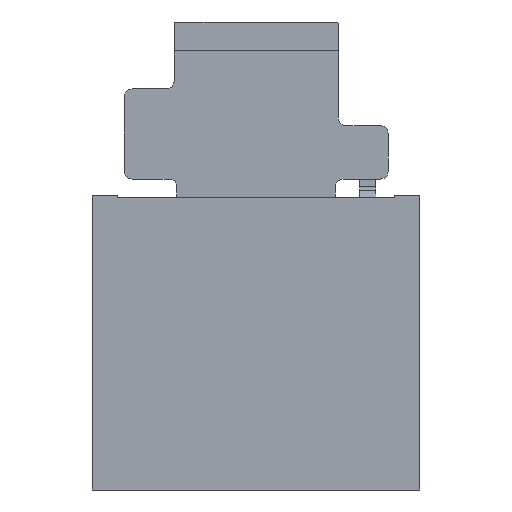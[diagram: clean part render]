
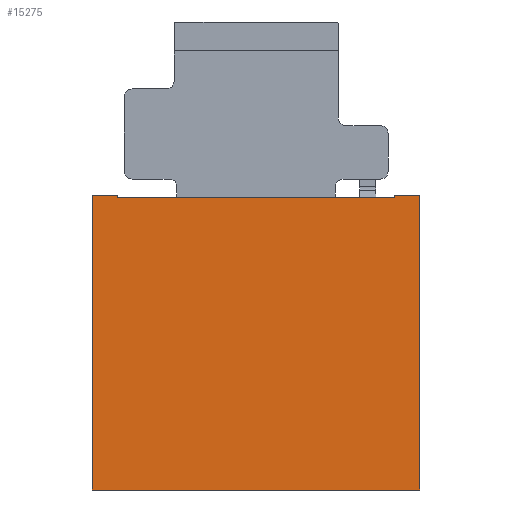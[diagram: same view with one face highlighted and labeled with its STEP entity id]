
A CAD part, front view. The second image highlights one B-rep face of the part: STEP entity #15275.
In plain terms, the highlighted planar face has unit normal (0, -1, 0).
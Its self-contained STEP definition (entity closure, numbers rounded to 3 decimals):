
#332 = VERTEX_POINT ( 'NONE', #14712 ) ;
#342 = DIRECTION ( 'NONE',  ( 1., 0., 0. ) ) ;
#1255 = LINE ( 'NONE', #40661, #14587 ) ;
#1349 = DIRECTION ( 'NONE',  ( 1., 0., 0. ) ) ;
#1747 = CARTESIAN_POINT ( 'NONE',  ( 21.5, -2.25, 22.9 ) ) ;
#2361 = ORIENTED_EDGE ( 'NONE', *, *, #27045, .F. ) ;
#2370 = EDGE_CURVE ( 'NONE', #35979, #35973, #17738, .T. ) ;
#2850 = EDGE_CURVE ( 'NONE', #30347, #332, #36695, .T. ) ;
#5593 = EDGE_CURVE ( 'NONE', #12898, #27149, #27370, .T. ) ;
#6793 = VECTOR ( 'NONE', #33354, 1000. ) ;
#7065 = LINE ( 'NONE', #20260, #6793 ) ;
#8303 = ORIENTED_EDGE ( 'NONE', *, *, #2850, .T. ) ;
#10210 = LINE ( 'NONE', #26378, #35811 ) ;
#10499 = CARTESIAN_POINT ( 'NONE',  ( -21.5, -2.25, 22.9 ) ) ;
#10886 = CARTESIAN_POINT ( 'NONE',  ( 21.5, -2.25, 22.9 ) ) ;
#12898 = VERTEX_POINT ( 'NONE', #1747 ) ;
#14171 = DIRECTION ( 'NONE',  ( 0., 0., 1. ) ) ;
#14587 = VECTOR ( 'NONE', #14171, 1000. ) ;
#14709 = CARTESIAN_POINT ( 'NONE',  ( -21.5, -2.25, 22.5 ) ) ;
#14712 = CARTESIAN_POINT ( 'NONE',  ( 25.45, -2.25, -22.9 ) ) ;
#15275 = ADVANCED_FACE ( 'NONE', ( #34993 ), #34360, .T. ) ;
#17370 = CARTESIAN_POINT ( 'NONE',  ( -25.45, -2.25, -22.9 ) ) ;
#17738 = LINE ( 'NONE', #14709, #26512 ) ;
#17739 = CARTESIAN_POINT ( 'NONE',  ( -25.45, -2.25, 22.9 ) ) ;
#17914 = EDGE_CURVE ( 'NONE', #35973, #12898, #19969, .T. ) ;
#19309 = ORIENTED_EDGE ( 'NONE', *, *, #2370, .F. ) ;
#19671 = VECTOR ( 'NONE', #342, 1000. ) ;
#19969 = LINE ( 'NONE', #10886, #20537 ) ;
#20260 = CARTESIAN_POINT ( 'NONE',  ( -25.45, -2.25, -22.9 ) ) ;
#20537 = VECTOR ( 'NONE', #24251, 1000. ) ;
#21651 = EDGE_CURVE ( 'NONE', #39586, #35979, #10210, .T. ) ;
#22102 = EDGE_CURVE ( 'NONE', #332, #27149, #1255, .T. ) ;
#24251 = DIRECTION ( 'NONE',  ( 0., 0., 1. ) ) ;
#24482 = DIRECTION ( 'NONE',  ( 0., 0., -1. ) ) ;
#25886 = LINE ( 'NONE', #35991, #39928 ) ;
#26378 = CARTESIAN_POINT ( 'NONE',  ( -21.5, -2.25, 22.9 ) ) ;
#26512 = VECTOR ( 'NONE', #31676, 1000. ) ;
#27045 = EDGE_CURVE ( 'NONE', #28631, #39586, #25886, .T. ) ;
#27149 = VERTEX_POINT ( 'NONE', #33401 ) ;
#27370 = LINE ( 'NONE', #17739, #36412 ) ;
#28210 = EDGE_CURVE ( 'NONE', #30347, #28631, #7065, .T. ) ;
#28631 = VERTEX_POINT ( 'NONE', #33202 ) ;
#28755 = EDGE_LOOP ( 'NONE', ( #36074, #2361, #31518, #8303, #38306, #35588, #40389, #19309 ) ) ;
#30347 = VERTEX_POINT ( 'NONE', #17370 ) ;
#31309 = CARTESIAN_POINT ( 'NONE',  ( -21.5, -2.25, 22.5 ) ) ;
#31518 = ORIENTED_EDGE ( 'NONE', *, *, #28210, .F. ) ;
#31676 = DIRECTION ( 'NONE',  ( 1., 0., 0. ) ) ;
#31780 = DIRECTION ( 'NONE',  ( 0., -1., 0. ) ) ;
#32553 = DIRECTION ( 'NONE',  ( 1., 0., 0. ) ) ;
#33202 = CARTESIAN_POINT ( 'NONE',  ( -25.45, -2.25, 22.9 ) ) ;
#33354 = DIRECTION ( 'NONE',  ( 0., 0., 1. ) ) ;
#33401 = CARTESIAN_POINT ( 'NONE',  ( 25.45, -2.25, 22.9 ) ) ;
#34360 = PLANE ( 'NONE',  #38941 ) ;
#34993 = FACE_OUTER_BOUND ( 'NONE', #28755, .T. ) ;
#35588 = ORIENTED_EDGE ( 'NONE', *, *, #5593, .F. ) ;
#35811 = VECTOR ( 'NONE', #36056, 1000. ) ;
#35973 = VERTEX_POINT ( 'NONE', #41451 ) ;
#35979 = VERTEX_POINT ( 'NONE', #31309 ) ;
#35991 = CARTESIAN_POINT ( 'NONE',  ( -25.45, -2.25, 22.9 ) ) ;
#36056 = DIRECTION ( 'NONE',  ( 0., 0., -1. ) ) ;
#36074 = ORIENTED_EDGE ( 'NONE', *, *, #21651, .F. ) ;
#36412 = VECTOR ( 'NONE', #1349, 1000. ) ;
#36695 = LINE ( 'NONE', #39523, #19671 ) ;
#38028 = CARTESIAN_POINT ( 'NONE',  ( 0., -2.25, 0. ) ) ;
#38306 = ORIENTED_EDGE ( 'NONE', *, *, #22102, .T. ) ;
#38941 = AXIS2_PLACEMENT_3D ( 'NONE', #38028, #31780, #24482 ) ;
#39523 = CARTESIAN_POINT ( 'NONE',  ( -25.45, -2.25, -22.9 ) ) ;
#39586 = VERTEX_POINT ( 'NONE', #10499 ) ;
#39928 = VECTOR ( 'NONE', #32553, 1000. ) ;
#40389 = ORIENTED_EDGE ( 'NONE', *, *, #17914, .F. ) ;
#40661 = CARTESIAN_POINT ( 'NONE',  ( 25.45, -2.25, -22.9 ) ) ;
#41451 = CARTESIAN_POINT ( 'NONE',  ( 21.5, -2.25, 22.5 ) ) ;
